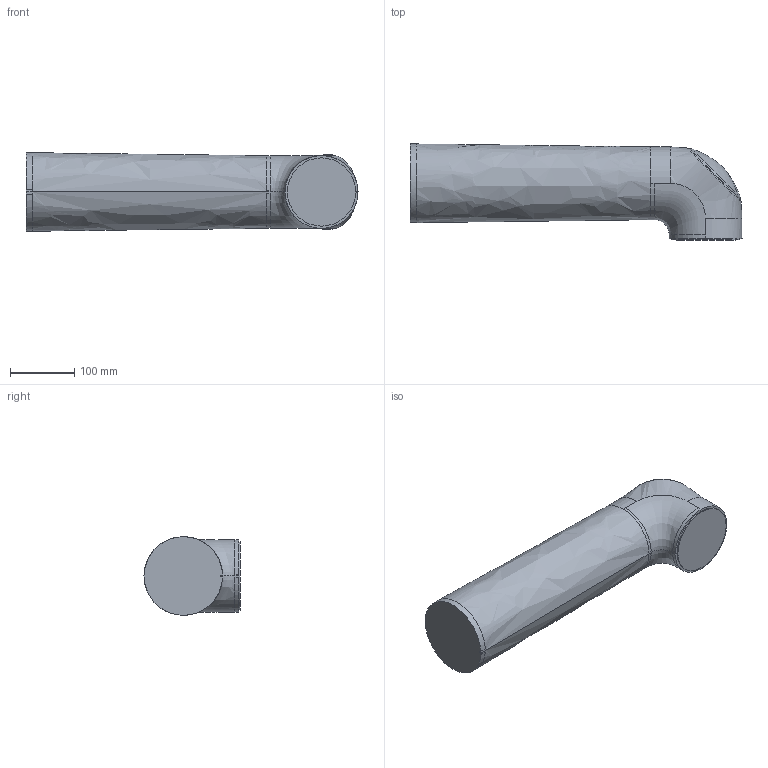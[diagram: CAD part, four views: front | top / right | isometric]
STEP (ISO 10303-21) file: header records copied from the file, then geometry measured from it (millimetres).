
FILE_DESCRIPTION (( 'STEP AP214' ), '1' );
FILE_NAME ('CRB1920_20kg-1670_OmniCore_rev00_Link4.step', '2026-03-06T03:42:42', ( '' ), ( '' ), 'SwSTEP 2.0', 'SolidWorks 2022', '' );
FILE_SCHEMA (( 'AUTOMOTIVE_DESIGN' ));
Length unit declared in the file: millimetre
Products named in the file (1): CRB1920_20kg-1670_OmniCore_rev00_Link4
Bounding box: 515.58 x 149.08 x 122 mm (x, y, z)
Volume: 5675032.3 mm3; surface area: 218157.4 mm2
Topology: 1 solids, 1 shells, 413 faces, 1093 edges, 713 vertices
Faces by surface type: bspline 367, plane 24, cylinder 18, cone 2, torus 2
Entity records: 54710 total; most frequent: CARTESIAN_POINT 47119, ORIENTED_EDGE 2182, EDGE_CURVE 1091, B_SPLINE_CURVE_WITH_KNOTS 983, VERTEX_POINT 713, EDGE_LOOP 446, ADVANCED_FACE 413, FACE_OUTER_BOUND 413
